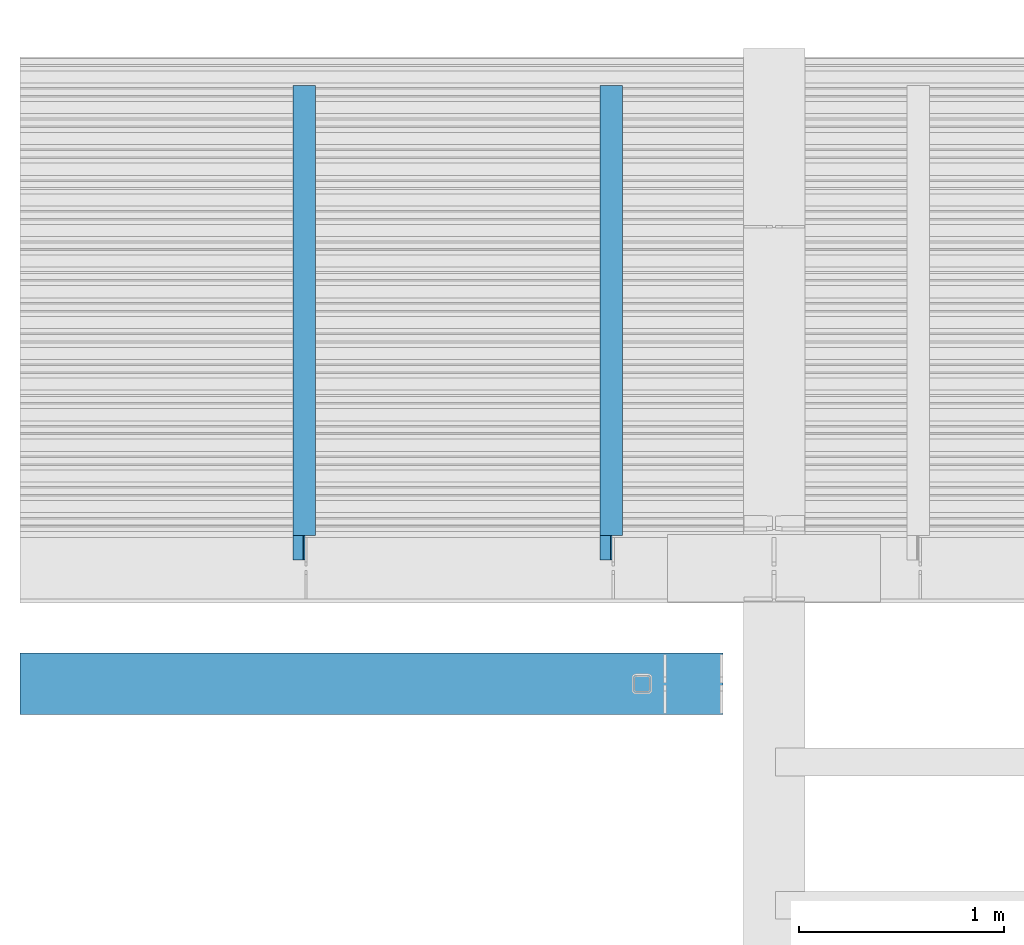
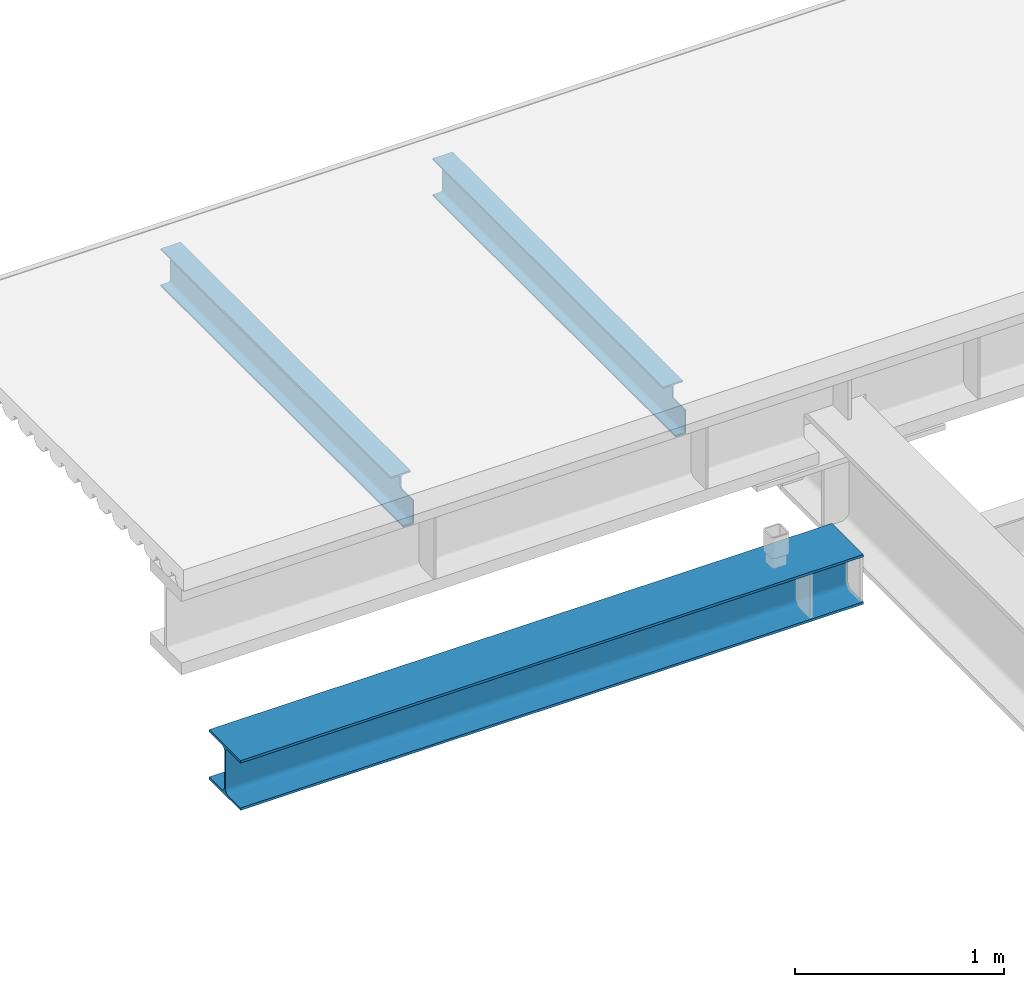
# One storey, part 5 of 12: 3 beams.
"""IFC2X3 building model written with IfcOpenShell, lengths in millimetres."""

from ifc_helpers import new_model, entity, si_unit, converted_unit, derived_unit, direction, frame, origin_with_axes, place, context, subcontext, project, spatial, faceted_brep, type_object, element, save


model = new_model("IFC2X3")

# Units and contexts
model_context = context("Model", 3, precision=0.01, world=frame((0.0, 4.29681676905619e-09, 0.0)), true_north=direction((4.01073788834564e-13, 1.0)))
plan_context = context("Plan", 3, precision=0.01, world=frame((0.0, 4.29681676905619e-09, 0.0)), true_north=direction((4.01073788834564e-13, 1.0)))
body_context = subcontext(model_context, "Body", "Model", "MODEL_VIEW")
ifc_project = project(units=[converted_unit("PLANEANGLEUNIT", "DEGREE", entity("IfcPositiveLengthMeasure", 0.0174532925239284), si_unit("PLANEANGLEUNIT", "RADIAN"), dimensions=[0, 0, 0, 0, 0, 0, 0]), si_unit("AREAUNIT", "SQUARE_METRE"), si_unit("LENGTHUNIT", "METRE", prefix="MILLI"), si_unit("MASSUNIT", "GRAM", prefix="KILO"), si_unit("POWERUNIT", "WATT"), si_unit("PRESSUREUNIT", "PASCAL"), si_unit("FORCEUNIT", "NEWTON", prefix="KILO"), si_unit("ELECTRICVOLTAGEUNIT", "VOLT"), si_unit("ELECTRICCURRENTUNIT", "AMPERE"), si_unit("THERMODYNAMICTEMPERATUREUNIT", "DEGREE_CELSIUS"), si_unit("TIMEUNIT", "SECOND"), si_unit("VOLUMEUNIT", "CUBIC_METRE"), derived_unit("LINEARVELOCITYUNIT", [(si_unit("LENGTHUNIT", "METRE"), 1), (si_unit("TIMEUNIT", "SECOND"), -1)]), derived_unit("VOLUMETRICFLOWRATEUNIT", [(si_unit("VOLUMEUNIT", "CUBIC_METRE"), 1), (si_unit("TIMEUNIT", "SECOND"), -1)]), derived_unit("THERMALTRANSMITTANCEUNIT", [(si_unit("POWERUNIT", "WATT"), 1), (si_unit("THERMODYNAMICTEMPERATUREUNIT", "KELVIN"), -1), (si_unit("AREAUNIT", "SQUARE_METRE"), -1)]), derived_unit("SOUNDPRESSUREUNIT", [(si_unit("PRESSUREUNIT", "PASCAL"), 1)])], contexts=[model_context, plan_context])

# Site, building, storey
site_placement = place(None, frame((0.0, -4.29681676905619e-09, 0.0), z_axis=(0.0, 0.0, 1.0), x_axis=(1.0, 0.0, 0.0)))
site = spatial("IfcSite", under=ifc_project, at=site_placement, Name="Gardermoen", CompositionType="ELEMENT")
building_placement = place(site_placement, frame((0.0, 4.29681676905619e-09, 0.0), z_axis=(0.0, 0.0, 1.0), x_axis=(1.0, 0.0, 0.0)))
building = spatial("IfcBuilding", under=site, at=building_placement, Name="TH", CompositionType="ELEMENT")
storey_placement = place(building_placement, origin_with_axes())
storey = spatial("IfcBuildingStorey", under=building, at=storey_placement, Name="D", CompositionType="ELEMENT", Elevation=0.0)

# Beams
beam_type_1 = type_object("IfcBeamType", Name="HEA300", PredefinedType="NOTDEFINED")
beam_1_placement = place(storey_placement, frame((888455.001809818, 484435.0, 209240.0), z_axis=(0.0, 0.0, 1.0), x_axis=(1.0, 0.0, 0.0)))
element("IfcBeam", 1, at=beam_1_placement, inside=storey, type_object=beam_type_1, Name="STÅLBJELKE", ObjectType="HEA300", context=body_context, shape_type="Brep", body=[
    faceted_brep([(6656.90435875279, 150.0, -145.0), (6656.90435875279, -150.0, -145.0), (10090.0, -150.0, -145.0), (10090.0, 150.0, -145.0), (6656.90435875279, -150.0, -131.0), (10090.0, -150.0, -131.0), (6656.90435875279, -31.25, -131.0), (10090.0, -31.25, -131.0), (6656.90435875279, -25.9825613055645, -130.481202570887), (10090.0, -25.9825613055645, -130.481202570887), (6656.90435875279, -20.9175473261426, -128.944747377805), (10090.0, -20.9175473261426, -128.944747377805), (6656.90435875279, -16.2496037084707, -126.449679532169), (10090.0, -16.2496037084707, -126.449679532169), (6656.90435875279, -12.1581169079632, -123.091883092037), (10090.0, -12.1581169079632, -123.091883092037), (6656.90435875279, -8.80032046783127, -119.000396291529), (10090.0, -8.80032046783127, -119.000396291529), (6656.90435875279, -6.30525262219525, -114.332452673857), (10090.0, -6.30525262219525, -114.332452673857), (6656.90435875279, -4.76879742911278, -109.267438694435), (10090.0, -4.76879742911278, -109.267438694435), (6656.90435875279, -4.25, -104.0), (10090.0, -4.25, -104.0), (6656.90435875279, -4.25, 104.0), (10090.0, -4.25, 104.0), (6656.90435875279, -4.76879742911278, 109.267438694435), (10090.0, -4.76879742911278, 109.267438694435), (6656.90435875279, -6.30525262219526, 114.332452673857), (10090.0, -6.30525262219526, 114.332452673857), (6656.90435875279, -8.80032046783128, 119.000396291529), (10090.0, -8.80032046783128, 119.000396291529), (6656.90435875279, -12.1581169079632, 123.091883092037), (10090.0, -12.1581169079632, 123.091883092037), (6656.90435875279, -16.2496037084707, 126.449679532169), (10090.0, -16.2496037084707, 126.449679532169), (6656.90435875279, -20.9175473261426, 128.944747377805), (10090.0, -20.9175473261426, 128.944747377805), (6656.90435875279, -25.9825613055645, 130.481202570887), (10090.0, -25.9825613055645, 130.481202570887), (6656.90435875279, -31.25, 131.0), (10090.0, -31.25, 131.0), (6656.90435875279, -150.0, 131.0), (10090.0, -150.0, 131.0), (6656.90435875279, -150.0, 145.0), (10090.0, -150.0, 145.0), (6656.90435875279, 150.0, 145.0), (10090.0, 150.0, 145.0), (6656.90435875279, 150.0, 131.0), (10090.0, 150.0, 131.0), (6656.90435875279, 31.25, 131.0), (10090.0, 31.25, 131.0), (6656.90435875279, 25.9825613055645, 130.481202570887), (10090.0, 25.9825613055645, 130.481202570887), (6656.90435875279, 20.9175473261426, 128.944747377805), (10090.0, 20.9175473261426, 128.944747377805), (6656.90435875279, 16.2496037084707, 126.449679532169), (10090.0, 16.2496037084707, 126.449679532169), (6656.90435875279, 12.1581169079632, 123.091883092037), (10090.0, 12.1581169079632, 123.091883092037), (6656.90435875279, 8.80032046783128, 119.000396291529), (10090.0, 8.80032046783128, 119.000396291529), (6656.90435875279, 6.30525262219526, 114.332452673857), (10090.0, 6.30525262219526, 114.332452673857), (6656.90435875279, 4.76879742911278, 109.267438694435), (10090.0, 4.76879742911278, 109.267438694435), (6656.90435875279, 4.25, 104.0), (10090.0, 4.25, 104.0), (6656.90435875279, 4.25, -104.0), (10090.0, 4.25, -104.0), (6656.90435875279, 4.76879742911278, -109.267438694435), (10090.0, 4.76879742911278, -109.267438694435), (6656.90435875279, 6.30525262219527, -114.332452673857), (10090.0, 6.30525262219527, -114.332452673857), (6656.90435875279, 8.80032046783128, -119.000396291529), (10090.0, 8.80032046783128, -119.000396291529), (6656.90435875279, 12.1581169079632, -123.091883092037), (10090.0, 12.1581169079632, -123.091883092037), (6656.90435875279, 16.2496037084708, -126.449679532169), (10090.0, 16.2496037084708, -126.449679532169), (6656.90435875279, 20.9175473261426, -128.944747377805), (10090.0, 20.9175473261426, -128.944747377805), (6656.90435875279, 25.9825613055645, -130.481202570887), (10090.0, 25.9825613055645, -130.481202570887), (6656.90435875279, 31.25, -131.0), (10090.0, 31.25, -131.0), (6656.90435875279, 150.0, -131.0), (10090.0, 150.0, -131.0)], [[[0, 1, 2, 3]], [[1, 4, 5, 2]], [[4, 6, 7, 5]], [[6, 8, 9, 7]], [[8, 10, 11, 9]], [[10, 12, 13, 11]], [[12, 14, 15, 13]], [[14, 16, 17, 15]], [[16, 18, 19, 17]], [[18, 20, 21, 19]], [[20, 22, 23, 21]], [[22, 24, 25, 23]], [[24, 26, 27, 25]], [[26, 28, 29, 27]], [[28, 30, 31, 29]], [[30, 32, 33, 31]], [[32, 34, 35, 33]], [[34, 36, 37, 35]], [[36, 38, 39, 37]], [[38, 40, 41, 39]], [[40, 42, 43, 41]], [[42, 44, 45, 43]], [[44, 46, 47, 45]], [[46, 48, 49, 47]], [[48, 50, 51, 49]], [[50, 52, 53, 51]], [[52, 54, 55, 53]], [[54, 56, 57, 55]], [[56, 58, 59, 57]], [[58, 60, 61, 59]], [[60, 62, 63, 61]], [[62, 64, 65, 63]], [[64, 66, 67, 65]], [[66, 68, 69, 67]], [[68, 70, 71, 69]], [[70, 72, 73, 71]], [[72, 74, 75, 73]], [[74, 76, 77, 75]], [[76, 78, 79, 77]], [[78, 80, 81, 79]], [[80, 82, 83, 81]], [[82, 84, 85, 83]], [[84, 86, 87, 85]], [[86, 0, 3, 87]], [[3, 2, 5, 7, 9, 11, 13, 15, 17, 19, 21, 23, 25, 27, 29, 31, 33, 35, 37, 39, 41, 43, 45, 47, 49, 51, 53, 55, 57, 59, 61, 63, 65, 67, 69, 71, 73, 75, 77, 79, 81, 83, 85, 87]], [[86, 84, 82, 80, 78, 76, 74, 72, 70, 68, 66, 64, 62, 60, 58, 56, 54, 52, 50, 48, 46, 44, 42, 40, 38, 36, 34, 32, 30, 28, 26, 24, 22, 20, 18, 16, 14, 12, 10, 8, 6, 4, 1, 0]]], orient=[[False], [False], [False], [False], [False], [False], [False], [False], [False], [False], [False], [False], [False], [False], [False], [False], [False], [False], [False], [False], [False], [False], [False], [False], [False], [False], [False], [False], [False], [False], [False], [False], [False], [False], [False], [False], [False], [False], [False], [False], [False], [False], [False], [False], [False], [False]]),
])
beam_type_2 = type_object("IfcBeamType", Name="IPE220", PredefinedType="NOTDEFINED")
beam_2_placement = place(storey_placement, frame((897999.999781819, 484999.995625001, 209930.0), z_axis=(0.0, 0.0, 1.0), x_axis=(0.0, 1.0, 0.0)))
element("IfcBeam", 2, at=beam_2_placement, inside=storey, type_object=beam_type_2, Name="STÅLBJELKE", ObjectType="IPE220", context=body_context, shape_type="Brep", body=[
    faceted_brep([(2357.65437500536, -55.0, -110.0), (2357.65437500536, 55.0, -110.0), (39.9999999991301, 55.0, -110.0), (39.9999999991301, -2.9500000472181, -110.0), (159.999999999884, -2.95000004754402, -110.0), (159.999999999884, -55.0, -110.0), (2357.65437500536, -55.0, -100.800000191), (159.999999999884, -55.0, -100.800000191), (2357.65437500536, -14.9500000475, -100.800000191), (159.999999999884, -14.9500000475, -100.800000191), (2357.65437500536, -12.6089161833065, -100.569423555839), (159.999999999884, -12.6089161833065, -100.569423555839), (2357.65437500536, -10.3577988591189, -99.8865545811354), (159.999999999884, -10.3577988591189, -99.8865545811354), (2357.65437500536, -8.28315725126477, -98.7776355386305), (159.999999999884, -8.28315725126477, -98.7776355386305), (2357.65437500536, -6.46471867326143, -97.2852815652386), (159.999999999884, -6.46471867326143, -97.2852815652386), (2357.65437500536, -4.97236469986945, -95.4668429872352), (159.999999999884, -4.97236469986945, -95.4668429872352), (2357.65437500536, -3.86344565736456, -93.3922013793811), (159.999999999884, -3.86344565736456, -93.3922013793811), (2357.65437500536, -3.18057668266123, -91.1410840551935), (159.999999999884, -3.18057668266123, -91.1410840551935), (2357.65437500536, -2.9500000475, -88.800000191), (159.999999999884, -3.06818971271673, -90.0), (39.9999999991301, -3.06818971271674, -90.0), (39.9999999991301, -2.9500000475, -88.800000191), (2357.65437500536, -2.9500000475, 88.800000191), (39.9999999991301, -2.9500000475, 30.0), (150.000000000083, -2.95000004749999, 29.9999999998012), (151.564344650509, -2.95000004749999, 30.1231165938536), (153.090169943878, -2.95000004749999, 30.4894348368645), (154.539904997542, -2.95000004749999, 31.0899347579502), (155.877852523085, -2.95000004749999, 31.9098300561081), (157.071067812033, -2.95000004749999, 32.9289321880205), (158.090169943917, -2.95000004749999, 34.1221474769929), (158.910065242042, -2.95000004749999, 35.4600950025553), (159.510565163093, -2.95000004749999, 36.9098300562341), (159.876883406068, -2.95000004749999, 38.435655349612), (160.000000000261, -2.95000004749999, 39.999999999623), (160.000000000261, -2.9500000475, 88.800000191), (2357.65437500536, -3.18057668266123, 91.1410840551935), (160.000000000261, -3.18057668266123, 91.1410840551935), (2357.65437500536, -3.86344565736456, 93.3922013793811), (160.000000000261, -3.86344565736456, 93.3922013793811), (2357.65437500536, -4.97236469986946, 95.4668429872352), (160.000000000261, -4.97236469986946, 95.4668429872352), (2357.65437500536, -6.46471867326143, 97.2852815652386), (160.000000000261, -6.46471867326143, 97.2852815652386), (2357.65437500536, -8.28315725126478, 98.7776355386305), (160.000000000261, -8.28315725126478, 98.7776355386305), (2357.65437500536, -10.3577988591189, 99.8865545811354), (160.000000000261, -10.3577988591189, 99.8865545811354), (2357.65437500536, -12.6089161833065, 100.569423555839), (160.000000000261, -12.6089161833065, 100.569423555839), (2357.65437500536, -14.9500000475, 100.800000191), (160.000000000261, -14.9500000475, 100.800000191), (2357.65437500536, -55.0, 100.800000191), (160.000000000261, -55.0, 100.800000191), (2357.65437500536, -55.0, 110.0), (160.000000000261, -55.0, 110.0), (2357.65437500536, 55.0, 110.0), (160.000000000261, 55.0, 110.0), (2357.65437500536, 55.0, 100.800000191), (160.000000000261, 55.0, 100.800000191), (2357.65437500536, 14.9500000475, 100.800000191), (160.000000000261, 14.9500000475, 100.800000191), (2357.65437500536, 12.6089161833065, 100.569423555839), (160.000000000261, 12.6089161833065, 100.569423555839), (2357.65437500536, 10.3577988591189, 99.8865545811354), (160.000000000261, 10.3577988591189, 99.8865545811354), (2357.65437500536, 8.28315725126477, 98.7776355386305), (160.000000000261, 8.28315725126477, 98.7776355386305), (2357.65437500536, 6.46471867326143, 97.2852815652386), (160.000000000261, 6.46471867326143, 97.2852815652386), (2357.65437500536, 4.97236469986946, 95.4668429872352), (160.000000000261, 4.97236469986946, 95.4668429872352), (2357.65437500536, 3.86344565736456, 93.3922013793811), (160.000000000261, 3.86344565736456, 93.3922013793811), (2357.65437500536, 3.18057668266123, 91.1410840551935), (160.000000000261, 3.18057668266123, 91.1410840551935), (2357.65437500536, 2.9500000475, 88.800000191), (160.000000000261, 2.9500000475, 88.800000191), (2357.65437500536, 2.9500000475, -88.800000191), (160.000000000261, 2.9500000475, 39.999999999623), (159.876883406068, 2.9500000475, 38.435655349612), (159.510565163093, 2.9500000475, 36.9098300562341), (158.910065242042, 2.9500000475, 35.4600950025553), (158.090169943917, 2.9500000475, 34.1221474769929), (157.071067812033, 2.9500000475, 32.9289321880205), (155.877852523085, 2.9500000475, 31.9098300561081), (154.539904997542, 2.9500000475, 31.0899347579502), (153.090169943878, 2.9500000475, 30.4894348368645), (151.564344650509, 2.9500000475, 30.1231165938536), (150.000000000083, 2.9500000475, 29.9999999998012), (39.9999999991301, 2.9500000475, 30.0), (39.9999999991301, 2.9500000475, -88.800000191), (2357.65437500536, 3.18057668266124, -91.1410840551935), (39.9999999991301, 3.18057668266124, -91.1410840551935), (2357.65437500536, 3.86344565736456, -93.3922013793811), (39.9999999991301, 3.86344565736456, -93.3922013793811), (2357.65437500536, 4.97236469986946, -95.4668429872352), (39.9999999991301, 4.97236469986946, -95.4668429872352), (2357.65437500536, 6.46471867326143, -97.2852815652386), (39.9999999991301, 6.46471867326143, -97.2852815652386), (2357.65437500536, 8.28315725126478, -98.7776355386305), (39.9999999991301, 8.28315725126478, -98.7776355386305), (2357.65437500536, 10.3577988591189, -99.8865545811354), (39.9999999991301, 10.3577988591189, -99.8865545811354), (2357.65437500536, 12.6089161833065, -100.569423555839), (39.9999999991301, 12.6089161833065, -100.569423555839), (2357.65437500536, 14.9500000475, -100.800000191), (39.9999999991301, 14.9500000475, -100.800000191), (2357.65437500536, 55.0, -100.800000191), (39.9999999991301, 55.0, -100.800000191), (159.999999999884, -2.95000004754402, -90.0), (39.9999999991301, -2.95000004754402, -90.0)], [[[0, 1, 2, 3, 4, 5]], [[6, 0, 5, 7]], [[8, 6, 7, 9]], [[10, 8, 9, 11]], [[12, 10, 11, 13]], [[14, 12, 13, 15]], [[16, 14, 15, 17]], [[18, 16, 17, 19]], [[20, 18, 19, 21]], [[22, 20, 21, 23]], [[24, 22, 23, 25, 26, 27]], [[28, 24, 27, 29, 30, 31, 32, 33, 34, 35, 36, 37, 38, 39, 40, 41]], [[42, 28, 41, 43]], [[44, 42, 43, 45]], [[46, 44, 45, 47]], [[48, 46, 47, 49]], [[50, 48, 49, 51]], [[52, 50, 51, 53]], [[54, 52, 53, 55]], [[56, 54, 55, 57]], [[58, 56, 57, 59]], [[60, 58, 59, 61]], [[62, 60, 61, 63]], [[64, 62, 63, 65]], [[66, 64, 65, 67]], [[68, 66, 67, 69]], [[70, 68, 69, 71]], [[72, 70, 71, 73]], [[74, 72, 73, 75]], [[76, 74, 75, 77]], [[78, 76, 77, 79]], [[80, 78, 79, 81]], [[82, 80, 81, 83]], [[84, 82, 83, 85, 86, 87, 88, 89, 90, 91, 92, 93, 94, 95, 96, 97]], [[98, 84, 97, 99]], [[100, 98, 99, 101]], [[102, 100, 101, 103]], [[104, 102, 103, 105]], [[106, 104, 105, 107]], [[108, 106, 107, 109]], [[110, 108, 109, 111]], [[112, 110, 111, 113]], [[114, 112, 113, 115]], [[1, 114, 115, 2]], [[116, 25, 23, 21, 19, 17, 15, 13, 11, 9, 7, 5, 4]], [[116, 117, 26, 25]], [[116, 4, 3, 117]], [[30, 29, 96, 95]], [[95, 94, 31, 30]], [[94, 93, 32, 31]], [[93, 92, 33, 32]], [[92, 91, 34, 33]], [[91, 90, 35, 34]], [[90, 89, 36, 35]], [[89, 88, 37, 36]], [[88, 87, 38, 37]], [[87, 86, 39, 38]], [[86, 85, 40, 39]], [[85, 83, 81, 79, 77, 75, 73, 71, 69, 67, 65, 63, 61, 59, 57, 55, 53, 51, 49, 47, 45, 43, 41, 40]], [[26, 117, 3, 2, 115, 113, 111, 109, 107, 105, 103, 101, 99, 97, 96, 29, 27]], [[6, 8, 10, 12, 14, 16, 18, 20, 22, 24, 28, 42, 44, 46, 48, 50, 52, 54, 56, 58, 60, 62, 64, 66, 68, 70, 72, 74, 76, 78, 80, 82, 84, 98, 100, 102, 104, 106, 108, 110, 112, 114, 1, 0]]], orient=[[False], [False], [False], [False], [False], [False], [False], [False], [False], [False], [False], [False], [False], [False], [False], [False], [False], [False], [False], [False], [False], [False], [False], [False], [False], [False], [False], [False], [False], [False], [False], [False], [False], [False], [False], [False], [False], [False], [False], [False], [False], [False], [False], [False], [False], [False], [False], [False], [False], [False], [False], [False], [False], [False], [False], [False], [False], [False], [False], [False], [False]]),
])
beam_3_placement = place(storey_placement, frame((896499.999781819, 484999.995625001, 209930.0), z_axis=(0.0, 0.0, 1.0), x_axis=(0.0, 1.0, 0.0)))
element("IfcBeam", 3, at=beam_3_placement, inside=storey, type_object=beam_type_2, Name="STÅLBJELKE", ObjectType="IPE220", context=body_context, shape_type="Brep", body=[
    faceted_brep([(2357.65437500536, -55.0, -110.0), (2357.65437500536, 55.0, -110.0), (39.9999999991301, 55.0, -110.0), (39.9999999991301, -2.9500000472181, -110.0), (159.999999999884, -2.95000004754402, -110.0), (159.999999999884, -55.0, -110.0), (2357.65437500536, -55.0, -100.800000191), (159.999999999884, -55.0, -100.800000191), (2357.65437500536, -14.9500000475, -100.800000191), (159.999999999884, -14.9500000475, -100.800000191), (2357.65437500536, -12.6089161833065, -100.569423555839), (159.999999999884, -12.6089161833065, -100.569423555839), (2357.65437500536, -10.3577988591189, -99.8865545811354), (159.999999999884, -10.3577988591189, -99.8865545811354), (2357.65437500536, -8.28315725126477, -98.7776355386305), (159.999999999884, -8.28315725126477, -98.7776355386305), (2357.65437500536, -6.46471867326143, -97.2852815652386), (159.999999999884, -6.46471867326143, -97.2852815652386), (2357.65437500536, -4.97236469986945, -95.4668429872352), (159.999999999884, -4.97236469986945, -95.4668429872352), (2357.65437500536, -3.86344565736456, -93.3922013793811), (159.999999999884, -3.86344565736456, -93.3922013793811), (2357.65437500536, -3.18057668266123, -91.1410840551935), (159.999999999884, -3.18057668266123, -91.1410840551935), (2357.65437500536, -2.9500000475, -88.800000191), (159.999999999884, -3.06818971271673, -90.0), (39.9999999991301, -3.06818971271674, -90.0), (39.9999999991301, -2.9500000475, -88.800000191), (2357.65437500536, -2.9500000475, 88.800000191), (39.9999999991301, -2.9500000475, 30.0), (150.000000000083, -2.95000004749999, 29.9999999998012), (151.564344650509, -2.95000004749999, 30.1231165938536), (153.090169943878, -2.95000004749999, 30.4894348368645), (154.539904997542, -2.95000004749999, 31.0899347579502), (155.877852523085, -2.95000004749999, 31.9098300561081), (157.071067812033, -2.95000004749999, 32.9289321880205), (158.090169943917, -2.95000004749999, 34.1221474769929), (158.910065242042, -2.95000004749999, 35.4600950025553), (159.510565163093, -2.95000004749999, 36.9098300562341), (159.876883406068, -2.95000004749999, 38.435655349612), (160.000000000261, -2.95000004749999, 39.999999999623), (160.000000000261, -2.9500000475, 88.800000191), (2357.65437500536, -3.18057668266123, 91.1410840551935), (160.000000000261, -3.18057668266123, 91.1410840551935), (2357.65437500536, -3.86344565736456, 93.3922013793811), (160.000000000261, -3.86344565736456, 93.3922013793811), (2357.65437500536, -4.97236469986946, 95.4668429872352), (160.000000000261, -4.97236469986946, 95.4668429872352), (2357.65437500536, -6.46471867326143, 97.2852815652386), (160.000000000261, -6.46471867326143, 97.2852815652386), (2357.65437500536, -8.28315725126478, 98.7776355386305), (160.000000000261, -8.28315725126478, 98.7776355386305), (2357.65437500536, -10.3577988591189, 99.8865545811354), (160.000000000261, -10.3577988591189, 99.8865545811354), (2357.65437500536, -12.6089161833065, 100.569423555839), (160.000000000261, -12.6089161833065, 100.569423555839), (2357.65437500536, -14.9500000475, 100.800000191), (160.000000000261, -14.9500000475, 100.800000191), (2357.65437500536, -55.0, 100.800000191), (160.000000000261, -55.0, 100.800000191), (2357.65437500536, -55.0, 110.0), (160.000000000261, -55.0, 110.0), (2357.65437500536, 55.0, 110.0), (160.000000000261, 55.0, 110.0), (2357.65437500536, 55.0, 100.800000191), (160.000000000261, 55.0, 100.800000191), (2357.65437500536, 14.9500000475, 100.800000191), (160.000000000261, 14.9500000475, 100.800000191), (2357.65437500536, 12.6089161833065, 100.569423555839), (160.000000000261, 12.6089161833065, 100.569423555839), (2357.65437500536, 10.3577988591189, 99.8865545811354), (160.000000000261, 10.3577988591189, 99.8865545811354), (2357.65437500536, 8.28315725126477, 98.7776355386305), (160.000000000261, 8.28315725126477, 98.7776355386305), (2357.65437500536, 6.46471867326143, 97.2852815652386), (160.000000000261, 6.46471867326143, 97.2852815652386), (2357.65437500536, 4.97236469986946, 95.4668429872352), (160.000000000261, 4.97236469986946, 95.4668429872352), (2357.65437500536, 3.86344565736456, 93.3922013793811), (160.000000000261, 3.86344565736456, 93.3922013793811), (2357.65437500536, 3.18057668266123, 91.1410840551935), (160.000000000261, 3.18057668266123, 91.1410840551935), (2357.65437500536, 2.9500000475, 88.800000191), (160.000000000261, 2.9500000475, 88.800000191), (2357.65437500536, 2.9500000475, -88.800000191), (160.000000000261, 2.9500000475, 39.999999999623), (159.876883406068, 2.9500000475, 38.435655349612), (159.510565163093, 2.9500000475, 36.9098300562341), (158.910065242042, 2.9500000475, 35.4600950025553), (158.090169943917, 2.9500000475, 34.1221474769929), (157.071067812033, 2.9500000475, 32.9289321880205), (155.877852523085, 2.9500000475, 31.9098300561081), (154.539904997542, 2.9500000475, 31.0899347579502), (153.090169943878, 2.9500000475, 30.4894348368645), (151.564344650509, 2.9500000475, 30.1231165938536), (150.000000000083, 2.9500000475, 29.9999999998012), (39.9999999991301, 2.9500000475, 30.0), (39.9999999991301, 2.9500000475, -88.800000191), (2357.65437500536, 3.18057668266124, -91.1410840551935), (39.9999999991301, 3.18057668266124, -91.1410840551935), (2357.65437500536, 3.86344565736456, -93.3922013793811), (39.9999999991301, 3.86344565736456, -93.3922013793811), (2357.65437500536, 4.97236469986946, -95.4668429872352), (39.9999999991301, 4.97236469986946, -95.4668429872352), (2357.65437500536, 6.46471867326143, -97.2852815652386), (39.9999999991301, 6.46471867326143, -97.2852815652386), (2357.65437500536, 8.28315725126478, -98.7776355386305), (39.9999999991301, 8.28315725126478, -98.7776355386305), (2357.65437500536, 10.3577988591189, -99.8865545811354), (39.9999999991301, 10.3577988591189, -99.8865545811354), (2357.65437500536, 12.6089161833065, -100.569423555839), (39.9999999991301, 12.6089161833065, -100.569423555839), (2357.65437500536, 14.9500000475, -100.800000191), (39.9999999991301, 14.9500000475, -100.800000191), (2357.65437500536, 55.0, -100.800000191), (39.9999999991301, 55.0, -100.800000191), (159.999999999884, -2.95000004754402, -90.0), (39.9999999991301, -2.95000004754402, -90.0)], [[[0, 1, 2, 3, 4, 5]], [[6, 0, 5, 7]], [[8, 6, 7, 9]], [[10, 8, 9, 11]], [[12, 10, 11, 13]], [[14, 12, 13, 15]], [[16, 14, 15, 17]], [[18, 16, 17, 19]], [[20, 18, 19, 21]], [[22, 20, 21, 23]], [[24, 22, 23, 25, 26, 27]], [[28, 24, 27, 29, 30, 31, 32, 33, 34, 35, 36, 37, 38, 39, 40, 41]], [[42, 28, 41, 43]], [[44, 42, 43, 45]], [[46, 44, 45, 47]], [[48, 46, 47, 49]], [[50, 48, 49, 51]], [[52, 50, 51, 53]], [[54, 52, 53, 55]], [[56, 54, 55, 57]], [[58, 56, 57, 59]], [[60, 58, 59, 61]], [[62, 60, 61, 63]], [[64, 62, 63, 65]], [[66, 64, 65, 67]], [[68, 66, 67, 69]], [[70, 68, 69, 71]], [[72, 70, 71, 73]], [[74, 72, 73, 75]], [[76, 74, 75, 77]], [[78, 76, 77, 79]], [[80, 78, 79, 81]], [[82, 80, 81, 83]], [[84, 82, 83, 85, 86, 87, 88, 89, 90, 91, 92, 93, 94, 95, 96, 97]], [[98, 84, 97, 99]], [[100, 98, 99, 101]], [[102, 100, 101, 103]], [[104, 102, 103, 105]], [[106, 104, 105, 107]], [[108, 106, 107, 109]], [[110, 108, 109, 111]], [[112, 110, 111, 113]], [[114, 112, 113, 115]], [[1, 114, 115, 2]], [[116, 25, 23, 21, 19, 17, 15, 13, 11, 9, 7, 5, 4]], [[116, 117, 26, 25]], [[116, 4, 3, 117]], [[30, 29, 96, 95]], [[95, 94, 31, 30]], [[94, 93, 32, 31]], [[93, 92, 33, 32]], [[92, 91, 34, 33]], [[91, 90, 35, 34]], [[90, 89, 36, 35]], [[89, 88, 37, 36]], [[88, 87, 38, 37]], [[87, 86, 39, 38]], [[86, 85, 40, 39]], [[85, 83, 81, 79, 77, 75, 73, 71, 69, 67, 65, 63, 61, 59, 57, 55, 53, 51, 49, 47, 45, 43, 41, 40]], [[26, 117, 3, 2, 115, 113, 111, 109, 107, 105, 103, 101, 99, 97, 96, 29, 27]], [[6, 8, 10, 12, 14, 16, 18, 20, 22, 24, 28, 42, 44, 46, 48, 50, 52, 54, 56, 58, 60, 62, 64, 66, 68, 70, 72, 74, 76, 78, 80, 82, 84, 98, 100, 102, 104, 106, 108, 110, 112, 114, 1, 0]]], orient=[[False], [False], [False], [False], [False], [False], [False], [False], [False], [False], [False], [False], [False], [False], [False], [False], [False], [False], [False], [False], [False], [False], [False], [False], [False], [False], [False], [False], [False], [False], [False], [False], [False], [False], [False], [False], [False], [False], [False], [False], [False], [False], [False], [False], [False], [False], [False], [False], [False], [False], [False], [False], [False], [False], [False], [False], [False], [False], [False], [False], [False]]),
])

save(model, "model.ifc")
